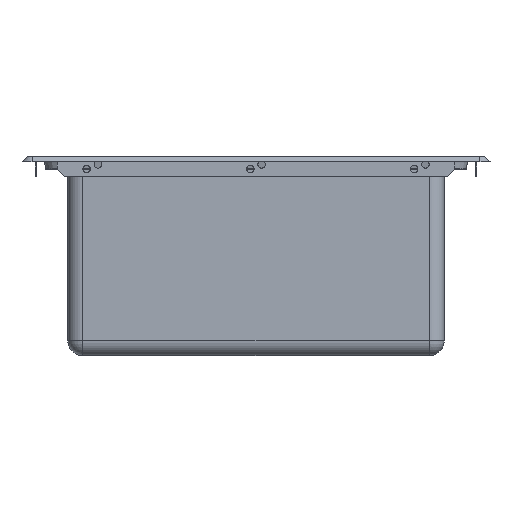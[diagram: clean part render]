
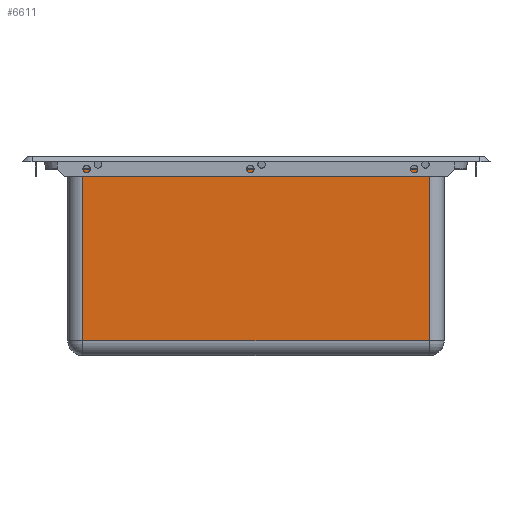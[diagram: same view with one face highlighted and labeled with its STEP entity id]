
A CAD part, left-side view. The second image highlights one B-rep face of the part: STEP entity #6611.
In plain terms, the highlighted planar face has unit normal (-1, 0, 0).
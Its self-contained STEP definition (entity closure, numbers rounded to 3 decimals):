
#6266=CARTESIAN_POINT('Vertex',(-381.,-185.,6.)) ;
#6310=CARTESIAN_POINT('Vertex',(-381.,185.,6.)) ;
#6313=CARTESIAN_POINT('Line Origine',(-381.,0.,6.)) ;
#6398=CARTESIAN_POINT('Line Origine',(-381.,-185.,-93.5)) ;
#6402=CARTESIAN_POINT('Vertex',(-381.,-185.,-177.)) ;
#6576=CARTESIAN_POINT('Line Origine',(-381.,185.,-93.5)) ;
#6580=CARTESIAN_POINT('Vertex',(-381.,185.,-177.)) ;
#6595=CARTESIAN_POINT('Axis2P3D Location',(-381.,-185.,6.)) ;
#6600=CARTESIAN_POINT('Line Origine',(-381.,0.,-177.)) ;
#6314=DIRECTION('Vector Direction',(0.,1.,0.)) ;
#6399=DIRECTION('Vector Direction',(0.,0.,1.)) ;
#6577=DIRECTION('Vector Direction',(0.,0.,1.)) ;
#6596=DIRECTION('Axis2P3D Direction',(-1.,0.,-0.)) ;
#6597=DIRECTION('Axis2P3D XDirection',(0.,1.,0.)) ;
#6601=DIRECTION('Vector Direction',(0.,1.,0.)) ;
#6598=AXIS2_PLACEMENT_3D('Plane Axis2P3D',#6595,#6596,#6597) ;
#6606=ORIENTED_EDGE('',*,*,#6404,.F.) ;
#6607=ORIENTED_EDGE('',*,*,#6317,.F.) ;
#6608=ORIENTED_EDGE('',*,*,#6582,.T.) ;
#6609=ORIENTED_EDGE('',*,*,#6604,.T.) ;
#6315=VECTOR('Line Direction',#6314,1.) ;
#6400=VECTOR('Line Direction',#6399,1.) ;
#6578=VECTOR('Line Direction',#6577,1.) ;
#6602=VECTOR('Line Direction',#6601,1.) ;
#6611=ADVANCED_FACE('Vasca',(#6610),#6599,.T.) ;
#6317=EDGE_CURVE('',#6311,#6267,#6316,.F.) ;
#6404=EDGE_CURVE('',#6267,#6403,#6401,.F.) ;
#6582=EDGE_CURVE('',#6311,#6581,#6579,.F.) ;
#6604=EDGE_CURVE('',#6581,#6403,#6603,.F.) ;
#6605=EDGE_LOOP('',(#6606,#6607,#6608,#6609)) ;
#6610=FACE_OUTER_BOUND('',#6605,.T.) ;
#6316=LINE('Line',#6313,#6315) ;
#6401=LINE('Line',#6398,#6400) ;
#6579=LINE('Line',#6576,#6578) ;
#6603=LINE('Line',#6600,#6602) ;
#6599=PLANE('',#6598) ;
#6267=VERTEX_POINT('',#6266) ;
#6311=VERTEX_POINT('',#6310) ;
#6403=VERTEX_POINT('',#6402) ;
#6581=VERTEX_POINT('',#6580) ;
